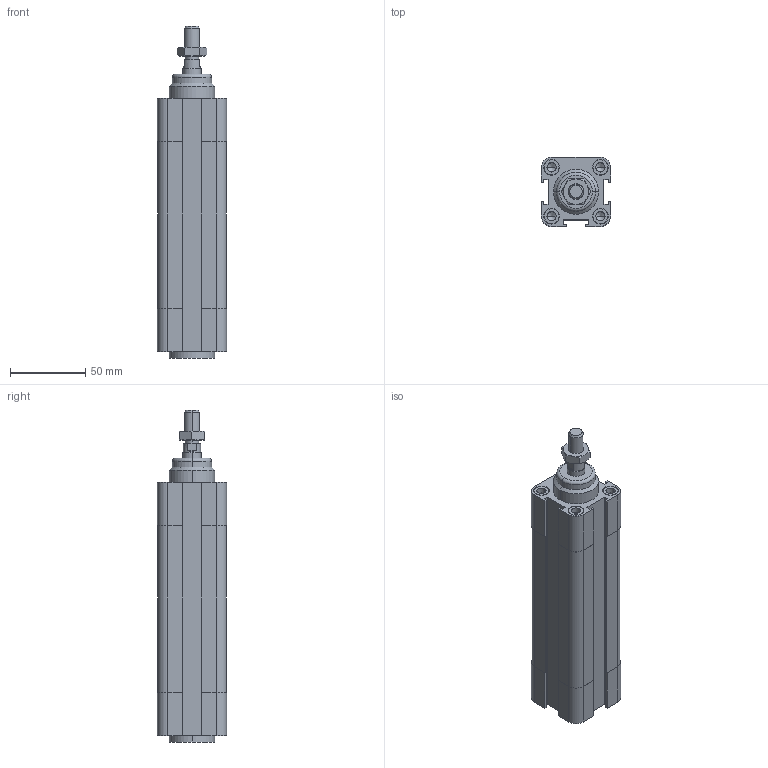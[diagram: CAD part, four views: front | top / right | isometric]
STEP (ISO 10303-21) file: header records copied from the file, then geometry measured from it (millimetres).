
FILE_DESCRIPTION((''),'2;1');
FILE_NAME('F:\Lib-3d\1380\CIL\1380_32_0075_01.stp','2004-01-07T15:57:37',('maffial1'),(''),'Autodesk Inventor 8','Autodesk Inventor 8','');
FILE_SCHEMA(('AUTOMOTIVE_DESIGN { 1 0 10303 214 1 1 1 1 }'));
Length unit declared in the file: millimetre
Products named in the file (4): 1380_32_0075_01; CPP01_32_75; CPP02_32_75; 1320_32_18F
Assembly tree (3 placements, depth 2):
  1380_32_0075_01
    CPP01_32_75
    CPP02_32_75
    1320_32_18F
Bounding box: 46 x 46 x 221 mm (x, y, z)
Volume: 326393.7 mm3; surface area: 57458.7 mm2
Topology: 3 solids, 3 shells, 244 faces, 570 edges, 356 vertices
Faces by surface type: plane 83, bspline 67, cylinder 58, cone 34, torus 2
Entity records: 7668 total; most frequent: CARTESIAN_POINT 2166, DIRECTION 1136, ORIENTED_EDGE 1108, EDGE_CURVE 554, AXIS2_PLACEMENT_3D 422, VERTEX_POINT 356, VECTOR 292, LINE 292
